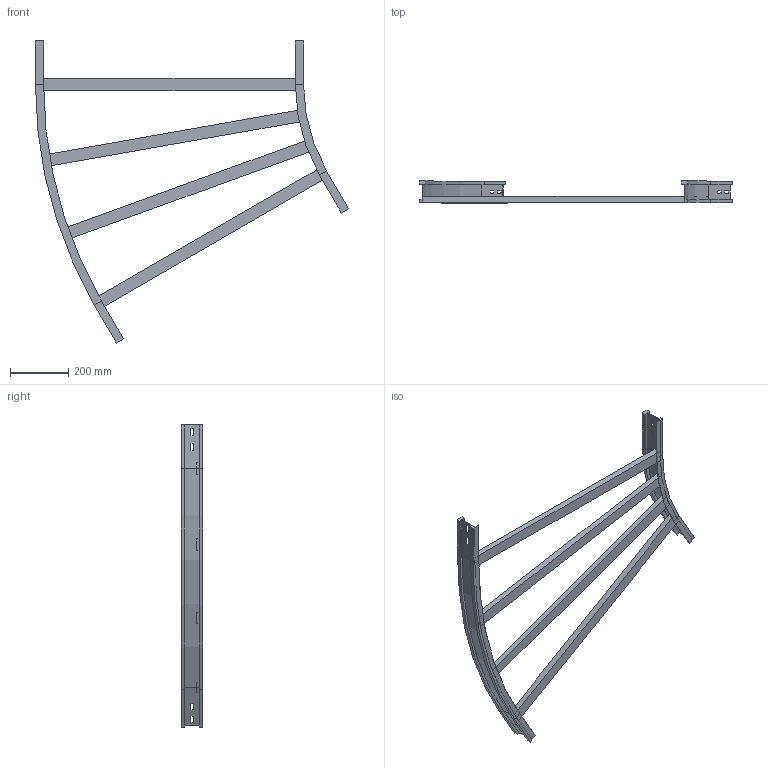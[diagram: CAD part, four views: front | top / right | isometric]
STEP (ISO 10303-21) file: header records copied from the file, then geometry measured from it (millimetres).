
FILE_DESCRIPTION (( 'STEP AP214' ), '1' );
FILE_NAME ('12S6C900.step', '2025-02-21T16:02:54', ( '' ), ( '' ), 'SwSTEP 2.0', 'SolidWorks 2023', '' );
FILE_SCHEMA (( 'AUTOMOTIVE_DESIGN' ));
Length unit declared in the file: millimetre
Products named in the file (4): 12S6C900; TRAVERSINO_900; LONGH.ESTERNO 30°_H75_R600+900; LONGH.INTERNO 30°_H75_R600
Assembly tree (6 placements, depth 2):
  12S6C900
    LONGH.INTERNO 30°_H75_R600
    LONGH.ESTERNO 30°_H75_R600+900
    TRAVERSINO_900  x4
Bounding box: 1072.18 x 75 x 1034.4 mm (x, y, z)
Volume: 3741036.9 mm3; surface area: 859605.7 mm2
Topology: 6 solids, 6 shells, 132 faces, 312 edges, 192 vertices
Faces by surface type: plane 120, cylinder 12
Entity records: 3397 total; most frequent: CARTESIAN_POINT 567, ORIENTED_EDGE 552, DIRECTION 546, EDGE_CURVE 276, LINE 252, VECTOR 252, VERTEX_POINT 168, AXIS2_PLACEMENT_3D 147
